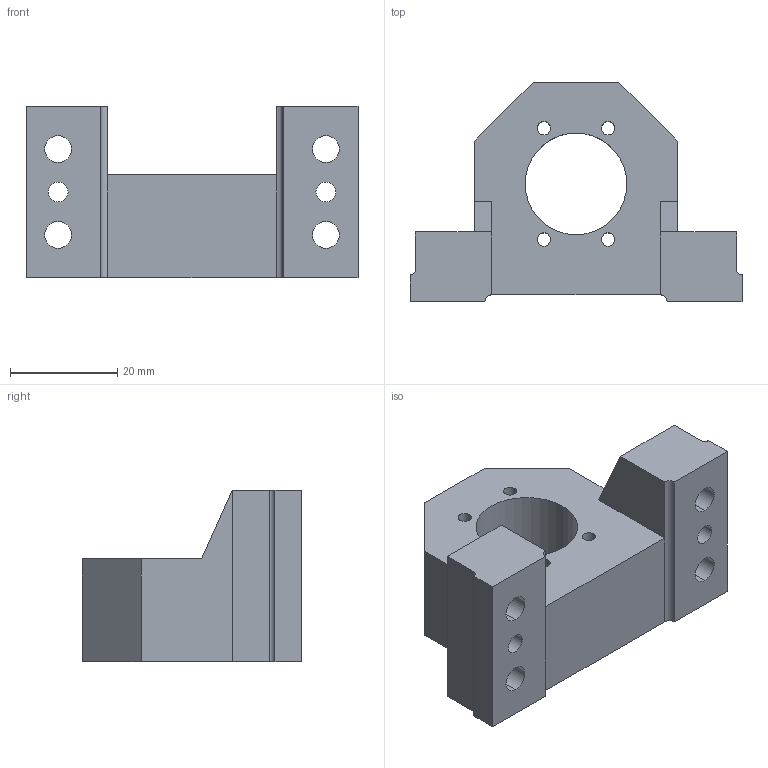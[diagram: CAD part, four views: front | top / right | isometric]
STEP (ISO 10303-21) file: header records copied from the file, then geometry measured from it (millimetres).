
FILE_DESCRIPTION (( 'STEP AP203' ), '1' );
FILE_NAME ('SFA-06.STEP', '2002-08-15T15:47:47', ( '.' ), ( '.' ), 'SwSTEP 2.0', 'SolidWorks 2001340', '' );
FILE_SCHEMA (( 'CONFIG_CONTROL_DESIGN' ));
Length unit declared in the file: millimetre
Products named in the file (1): SFA-06
Bounding box: 62 x 41 x 32 mm (x, y, z)
Volume: 30425.1 mm3; surface area: 10701.5 mm2
Topology: 1 solids, 1 shells, 48 faces, 134 edges, 88 vertices
Faces by surface type: cylinder 26, plane 22
Entity records: 1679 total; most frequent: DIRECTION 284, CARTESIAN_POINT 271, ORIENTED_EDGE 268, EDGE_CURVE 134, AXIS2_PLACEMENT_3D 101, VERTEX_POINT 88, LINE 82, VECTOR 82
